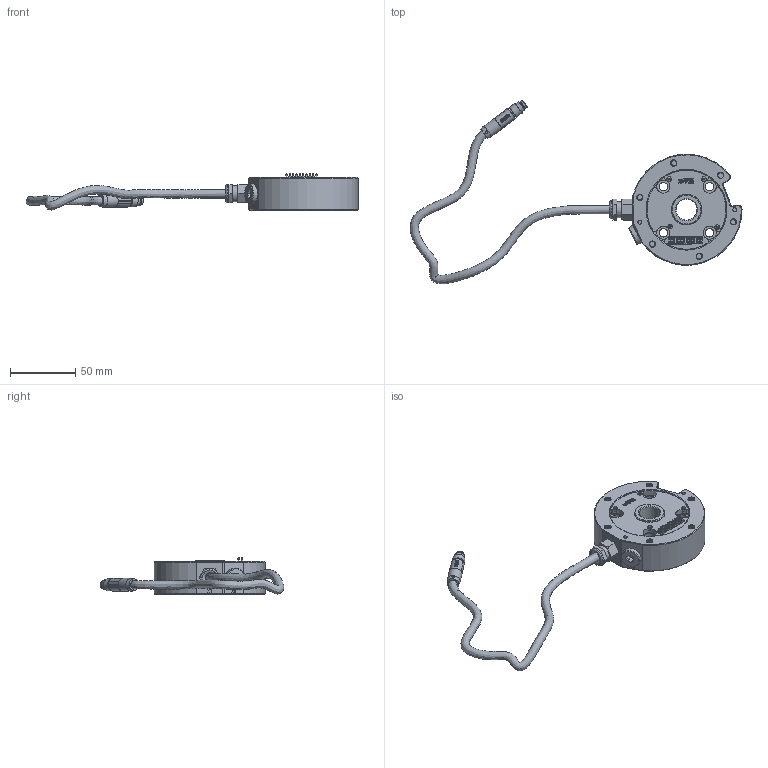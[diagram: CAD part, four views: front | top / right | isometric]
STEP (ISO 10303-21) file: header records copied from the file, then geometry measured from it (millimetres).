
FILE_DESCRIPTION (( 'STEP AP214' ), '1' );
FILE_NAME ('ACC-PIX-T60-ISO.STEP', '2025-08-08T13:05:00', ( '' ), ( '' ), 'SwSTEP 2.0', 'SolidWorks 2022', '' );
FILE_SCHEMA (( 'AUTOMOTIVE_DESIGN' ));
Length unit declared in the file: millimetre
Products named in the file (1): ACC-PIX-T60-ISO
Bounding box: 254.26 x 140.7 x 27.81 mm (x, y, z)
Surface area: 38967.1 mm2 (no closed solid volume)
Topology: 0 solids, 71 shells, 665 faces, 3403 edges, 2743 vertices
Faces by surface type: cylinder 261, plane 223, cone 73, bspline 46, sphere 43, torus 19
Full cylindrical faces by diameter (mm): 0.6 x7, 0.75 x1, 1 x2, 3 x2, 3.5 x5, 4.2 x66, 5.9 x1, 6 x1, 6.35 x2, 6.4 x4, 7 x1, 7.4 x1, 8 x1, 9.3 x1, 10 x1, 10.1 x4, 12 x1, 14 x1, 14.8 x1, 16 x1, 23 x1, 23.5 x1, 61 x1, 65 x1
Entity records: 50615 total; most frequent: CARTESIAN_POINT 21684, DIRECTION 4147, ORIENTED_EDGE 3894, EDGE_CURVE 3010, VERTEX_POINT 2536, LINE 1397, VECTOR 1397, AXIS2_PLACEMENT_3D 1375
